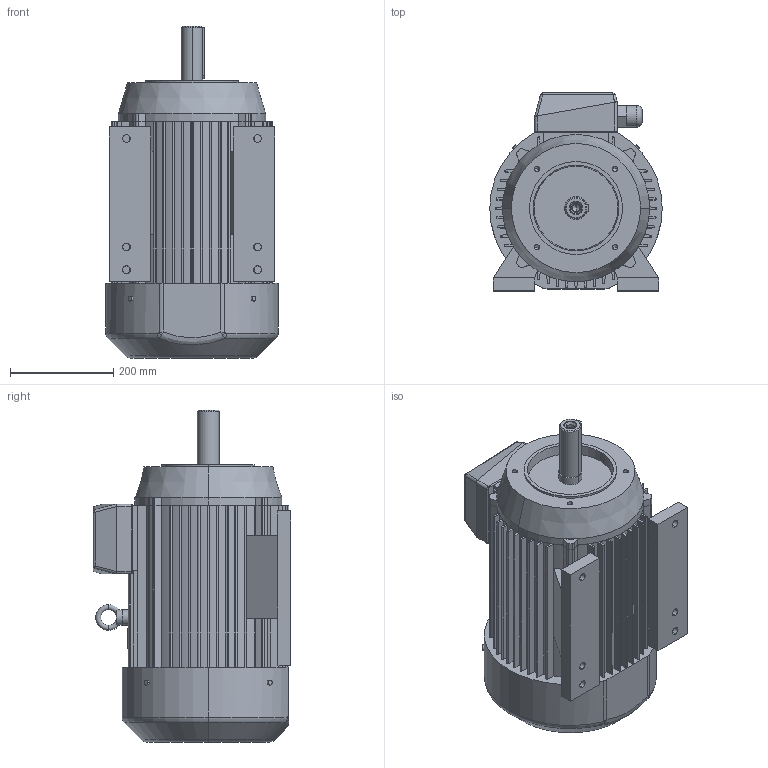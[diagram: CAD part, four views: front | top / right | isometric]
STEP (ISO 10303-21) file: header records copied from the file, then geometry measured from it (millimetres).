
FILE_DESCRIPTION (( 'STEP AP203' ), '1' );
FILE_NAME ('3SIEL160L-B34-C2.STEP', '2014-10-01T07:00:14', ( '' ), ( '' ), 'SwSTEP 2.0', 'SolidWorks 2003064', '' );
FILE_SCHEMA (( 'CONFIG_CONTROL_DESIGN' ));
Length unit declared in the file: millimetre
Products named in the file (1): 3SIEL160L-B34-C2
Bounding box: 334 x 383 x 643 mm (x, y, z)
Volume: 40973725.3 mm3; surface area: 1504048.8 mm2
Topology: 16 solids, 16 shells, 431 faces, 1113 edges, 705 vertices
Faces by surface type: cylinder 191, plane 190, cone 24, torus 17, bspline 5, sphere 4
Entity records: 16167 total; most frequent: CARTESIAN_POINT 5402, DIRECTION 2327, ORIENTED_EDGE 2194, EDGE_CURVE 1097, AXIS2_PLACEMENT_3D 844, VERTEX_POINT 705, LINE 639, VECTOR 639
